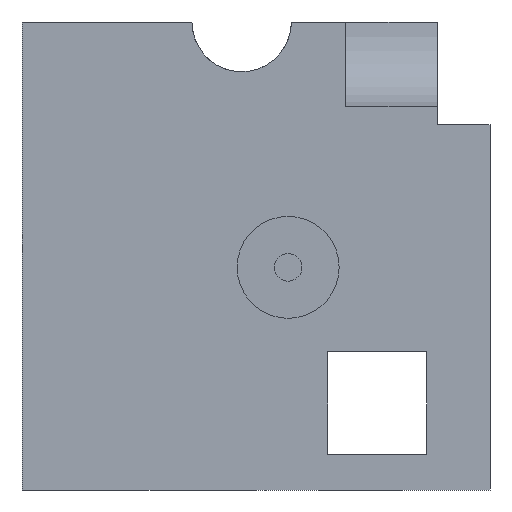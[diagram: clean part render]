
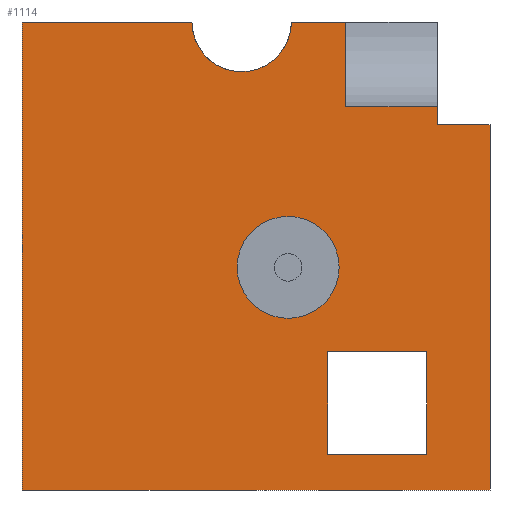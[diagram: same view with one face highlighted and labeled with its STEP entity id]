
A CAD part, left-side view. The second image highlights one B-rep face of the part: STEP entity #1114.
In plain terms, the highlighted planar face has unit normal (-1, 0, 0).
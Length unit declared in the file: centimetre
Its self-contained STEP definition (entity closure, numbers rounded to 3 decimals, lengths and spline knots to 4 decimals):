
#19 = DIRECTION ( 'NONE',  ( 1., 0., 0. ) ) ;
#48 = ORIENTED_EDGE ( 'NONE', *, *, #552, .F. ) ;
#69 = ORIENTED_EDGE ( 'NONE', *, *, #598, .F. ) ;
#71 = VERTEX_POINT ( 'NONE', #224 ) ;
#72 = CARTESIAN_POINT ( 'NONE',  ( 0., 346.9546, 75.9189 ) ) ;
#85 = ORIENTED_EDGE ( 'NONE', *, *, #1125, .T. ) ;
#87 = DIRECTION ( 'NONE',  ( 0., -1., 0. ) ) ;
#96 = CARTESIAN_POINT ( 'NONE',  ( 0., 431.3298, 584.6808 ) ) ;
#98 = ORIENTED_EDGE ( 'NONE', *, *, #378, .F. ) ;
#100 = LINE ( 'NONE', #1078, #751 ) ;
#101 = EDGE_CURVE ( 'NONE', #127, #821, #1031, .T. ) ;
#104 = CARTESIAN_POINT ( 'NONE',  ( 0., 0., 780.6059 ) ) ;
#116 = EDGE_LOOP ( 'NONE', ( #905, #447, #787, #768, #48, #830, #85, #1112, #216, #69 ) ) ;
#127 = VERTEX_POINT ( 'NONE', #937 ) ;
#133 = VERTEX_POINT ( 'NONE', #401 ) ;
#147 = LINE ( 'NONE', #703, #589 ) ;
#163 = ORIENTED_EDGE ( 'NONE', *, *, #784, .T. ) ;
#164 = CARTESIAN_POINT ( 'NONE',  ( 0., 431.3298, 475.7305 ) ) ;
#168 = DIRECTION ( 'NONE',  ( 0., 0., -1. ) ) ;
#174 = VECTOR ( 'NONE', #168, 100. ) ;
#195 = CARTESIAN_POINT ( 'NONE',  ( 0., 307.9479, 1000. ) ) ;
#202 = CARTESIAN_POINT ( 'NONE',  ( 0., 1000., 1000. ) ) ;
#205 = VECTOR ( 'NONE', #862, 100. ) ;
#216 = ORIENTED_EDGE ( 'NONE', *, *, #572, .F. ) ;
#224 = CARTESIAN_POINT ( 'NONE',  ( 0., 134.7998, 295.8859 ) ) ;
#233 = EDGE_CURVE ( 'NONE', #917, #962, #1140, .T. ) ;
#240 = VERTEX_POINT ( 'NONE', #253 ) ;
#253 = CARTESIAN_POINT ( 'NONE',  ( 0., 1000., 1000. ) ) ;
#255 = LINE ( 'NONE', #608, #174 ) ;
#256 = EDGE_LOOP ( 'NONE', ( #503, #98 ) ) ;
#283 = LINE ( 'NONE', #195, #975 ) ;
#285 = LINE ( 'NONE', #644, #745 ) ;
#296 = CARTESIAN_POINT ( 'NONE',  ( 0., 1000., 1000. ) ) ;
#316 = LINE ( 'NONE', #846, #913 ) ;
#334 = DIRECTION ( 'NONE',  ( 0., 0., -1. ) ) ;
#347 = VECTOR ( 'NONE', #1047, 100. ) ;
#376 = LINE ( 'NONE', #202, #925 ) ;
#378 = EDGE_CURVE ( 'NONE', #133, #1123, #585, .T. ) ;
#385 = FACE_BOUND ( 'NONE', #256, .T. ) ;
#401 = CARTESIAN_POINT ( 'NONE',  ( 0., 431.3298, 366.7803 ) ) ;
#405 = EDGE_CURVE ( 'NONE', #767, #577, #705, .T. ) ;
#406 = CARTESIAN_POINT ( 'NONE',  ( 0., 1000., 1000. ) ) ;
#413 = ORIENTED_EDGE ( 'NONE', *, *, #748, .T. ) ;
#420 = CARTESIAN_POINT ( 'NONE',  ( 0., 112.9591, 818.767 ) ) ;
#421 = VECTOR ( 'NONE', #1004, 100. ) ;
#429 = CIRCLE ( 'NONE', #707, 106.3034 ) ;
#433 = EDGE_CURVE ( 'NONE', #767, #514, #100, .T. ) ;
#447 = ORIENTED_EDGE ( 'NONE', *, *, #433, .T. ) ;
#461 = FACE_OUTER_BOUND ( 'NONE', #116, .T. ) ;
#471 = CARTESIAN_POINT ( 'NONE',  ( 0., 134.7998, 75.9189 ) ) ;
#501 = DIRECTION ( 'NONE',  ( 0., -1., 0. ) ) ;
#503 = ORIENTED_EDGE ( 'NONE', *, *, #1026, .F. ) ;
#514 = VERTEX_POINT ( 'NONE', #693 ) ;
#519 = DIRECTION ( 'NONE',  ( -1., 0., 0. ) ) ;
#525 = DIRECTION ( 'NONE',  ( 0., 0., 1. ) ) ;
#543 = EDGE_CURVE ( 'NONE', #928, #747, #1054, .T. ) ;
#551 = EDGE_LOOP ( 'NONE', ( #163, #413, #578, #603 ) ) ;
#552 = EDGE_CURVE ( 'NONE', #623, #127, #429, .T. ) ;
#553 = DIRECTION ( 'NONE',  ( 0., 0., -1. ) ) ;
#559 = VECTOR ( 'NONE', #87, 100. ) ;
#560 = DIRECTION ( 'NONE',  ( 0., 1., 0. ) ) ;
#572 = EDGE_CURVE ( 'NONE', #856, #962, #674, .T. ) ;
#577 = VERTEX_POINT ( 'NONE', #794 ) ;
#578 = ORIENTED_EDGE ( 'NONE', *, *, #543, .T. ) ;
#585 = CIRCLE ( 'NONE', #933, 108.9502 ) ;
#589 = VECTOR ( 'NONE', #501, 100. ) ;
#598 = EDGE_CURVE ( 'NONE', #577, #856, #147, .T. ) ;
#603 = ORIENTED_EDGE ( 'NONE', *, *, #916, .T. ) ;
#606 = CARTESIAN_POINT ( 'NONE',  ( 0., 431.3298, 475.7305 ) ) ;
#608 = CARTESIAN_POINT ( 'NONE',  ( 0., 134.7998, 75.9189 ) ) ;
#621 = CIRCLE ( 'NONE', #762, 108.9502 ) ;
#623 = VERTEX_POINT ( 'NONE', #786 ) ;
#643 = EDGE_CURVE ( 'NONE', #240, #623, #376, .T. ) ;
#644 = CARTESIAN_POINT ( 'NONE',  ( 0., 1000., 1000. ) ) ;
#659 = AXIS2_PLACEMENT_3D ( 'NONE', #296, #19, #818 ) ;
#674 = LINE ( 'NONE', #764, #1011 ) ;
#680 = CARTESIAN_POINT ( 'NONE',  ( 0., 346.9546, 75.9189 ) ) ;
#693 = CARTESIAN_POINT ( 'NONE',  ( 0., 307.9479, 818.767 ) ) ;
#703 = CARTESIAN_POINT ( 'NONE',  ( 0., 0., 780.6059 ) ) ;
#705 = LINE ( 'NONE', #731, #421 ) ;
#707 = AXIS2_PLACEMENT_3D ( 'NONE', #853, #1049, #525 ) ;
#726 = EDGE_CURVE ( 'NONE', #821, #514, #283, .T. ) ;
#731 = CARTESIAN_POINT ( 'NONE',  ( 0., 112.9591, 780.6059 ) ) ;
#745 = VECTOR ( 'NONE', #1000, 100. ) ;
#747 = VERTEX_POINT ( 'NONE', #777 ) ;
#748 = EDGE_CURVE ( 'NONE', #1104, #928, #316, .T. ) ;
#751 = VECTOR ( 'NONE', #560, 100. ) ;
#762 = AXIS2_PLACEMENT_3D ( 'NONE', #606, #1051, #963 ) ;
#764 = CARTESIAN_POINT ( 'NONE',  ( 0., 0., 1000. ) ) ;
#767 = VERTEX_POINT ( 'NONE', #420 ) ;
#768 = ORIENTED_EDGE ( 'NONE', *, *, #101, .F. ) ;
#775 = LINE ( 'NONE', #886, #1046 ) ;
#777 = CARTESIAN_POINT ( 'NONE',  ( 0., 346.9546, 295.8859 ) ) ;
#784 = EDGE_CURVE ( 'NONE', #71, #1104, #255, .T. ) ;
#786 = CARTESIAN_POINT ( 'NONE',  ( 0., 636.891, 1000. ) ) ;
#787 = ORIENTED_EDGE ( 'NONE', *, *, #726, .F. ) ;
#794 = CARTESIAN_POINT ( 'NONE',  ( 0., 112.9591, 780.6059 ) ) ;
#804 = DIRECTION ( 'NONE',  ( 0., -1., 0. ) ) ;
#818 = DIRECTION ( 'NONE',  ( 0., 0., -1. ) ) ;
#821 = VERTEX_POINT ( 'NONE', #996 ) ;
#830 = ORIENTED_EDGE ( 'NONE', *, *, #643, .F. ) ;
#846 = CARTESIAN_POINT ( 'NONE',  ( 0., 134.7998, 75.9189 ) ) ;
#853 = CARTESIAN_POINT ( 'NONE',  ( 0., 530.5877, 1000. ) ) ;
#856 = VERTEX_POINT ( 'NONE', #104 ) ;
#862 = DIRECTION ( 'NONE',  ( 0., 0., 1. ) ) ;
#886 = CARTESIAN_POINT ( 'NONE',  ( 0., 134.7998, 295.8859 ) ) ;
#894 = FACE_BOUND ( 'NONE', #551, .T. ) ;
#905 = ORIENTED_EDGE ( 'NONE', *, *, #405, .F. ) ;
#913 = VECTOR ( 'NONE', #1032, 100. ) ;
#916 = EDGE_CURVE ( 'NONE', #747, #71, #775, .T. ) ;
#917 = VERTEX_POINT ( 'NONE', #1129 ) ;
#925 = VECTOR ( 'NONE', #804, 100. ) ;
#928 = VERTEX_POINT ( 'NONE', #72 ) ;
#933 = AXIS2_PLACEMENT_3D ( 'NONE', #164, #519, #1145 ) ;
#937 = CARTESIAN_POINT ( 'NONE',  ( 0., 424.2843, 1000. ) ) ;
#962 = VERTEX_POINT ( 'NONE', #1138 ) ;
#963 = DIRECTION ( 'NONE',  ( 0., 0., 1. ) ) ;
#975 = VECTOR ( 'NONE', #553, 100. ) ;
#995 = CARTESIAN_POINT ( 'NONE',  ( 0., 1000., 0. ) ) ;
#996 = CARTESIAN_POINT ( 'NONE',  ( 0., 307.9479, 1000. ) ) ;
#1000 = DIRECTION ( 'NONE',  ( 0., 0., -1. ) ) ;
#1004 = DIRECTION ( 'NONE',  ( 0., 0., -1. ) ) ;
#1011 = VECTOR ( 'NONE', #334, 100. ) ;
#1026 = EDGE_CURVE ( 'NONE', #1123, #133, #621, .T. ) ;
#1031 = LINE ( 'NONE', #406, #347 ) ;
#1032 = DIRECTION ( 'NONE',  ( 0., 1., 0. ) ) ;
#1046 = VECTOR ( 'NONE', #1058, 100. ) ;
#1047 = DIRECTION ( 'NONE',  ( 0., -1., 0. ) ) ;
#1049 = DIRECTION ( 'NONE',  ( -1., 0., 0. ) ) ;
#1051 = DIRECTION ( 'NONE',  ( -1., 0., 0. ) ) ;
#1054 = LINE ( 'NONE', #680, #205 ) ;
#1058 = DIRECTION ( 'NONE',  ( 0., -1., 0. ) ) ;
#1078 = CARTESIAN_POINT ( 'NONE',  ( 0., 307.9479, 818.767 ) ) ;
#1096 = PLANE ( 'NONE',  #659 ) ;
#1104 = VERTEX_POINT ( 'NONE', #471 ) ;
#1112 = ORIENTED_EDGE ( 'NONE', *, *, #233, .T. ) ;
#1114 = ADVANCED_FACE ( 'NONE', ( #894, #385, #461 ), #1096, .F. ) ;
#1123 = VERTEX_POINT ( 'NONE', #96 ) ;
#1125 = EDGE_CURVE ( 'NONE', #240, #917, #285, .T. ) ;
#1129 = CARTESIAN_POINT ( 'NONE',  ( 0., 1000., 0. ) ) ;
#1138 = CARTESIAN_POINT ( 'NONE',  ( 0., 0., 0. ) ) ;
#1140 = LINE ( 'NONE', #995, #559 ) ;
#1145 = DIRECTION ( 'NONE',  ( 0., 0., 1. ) ) ;
